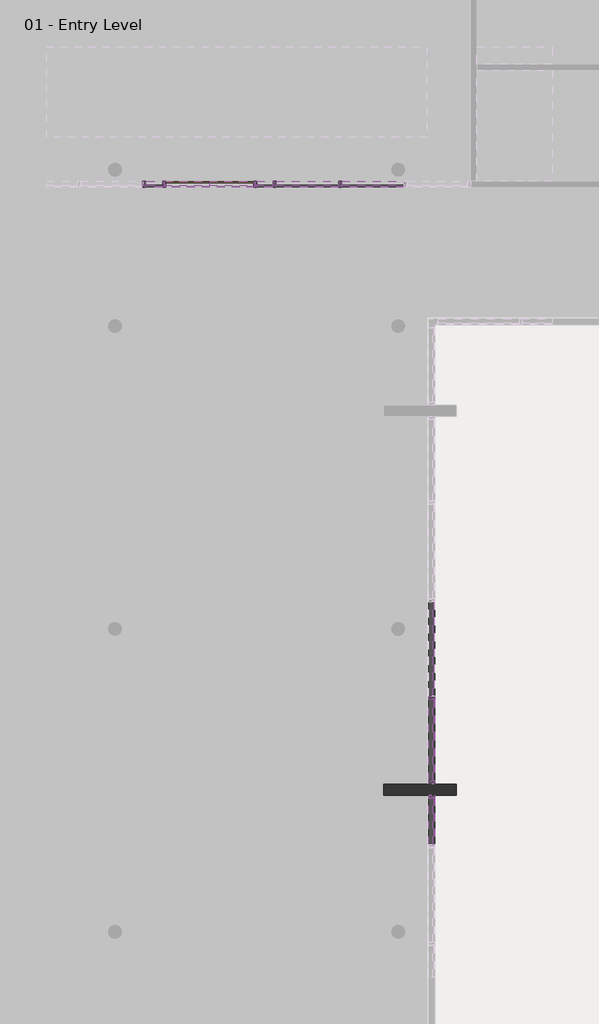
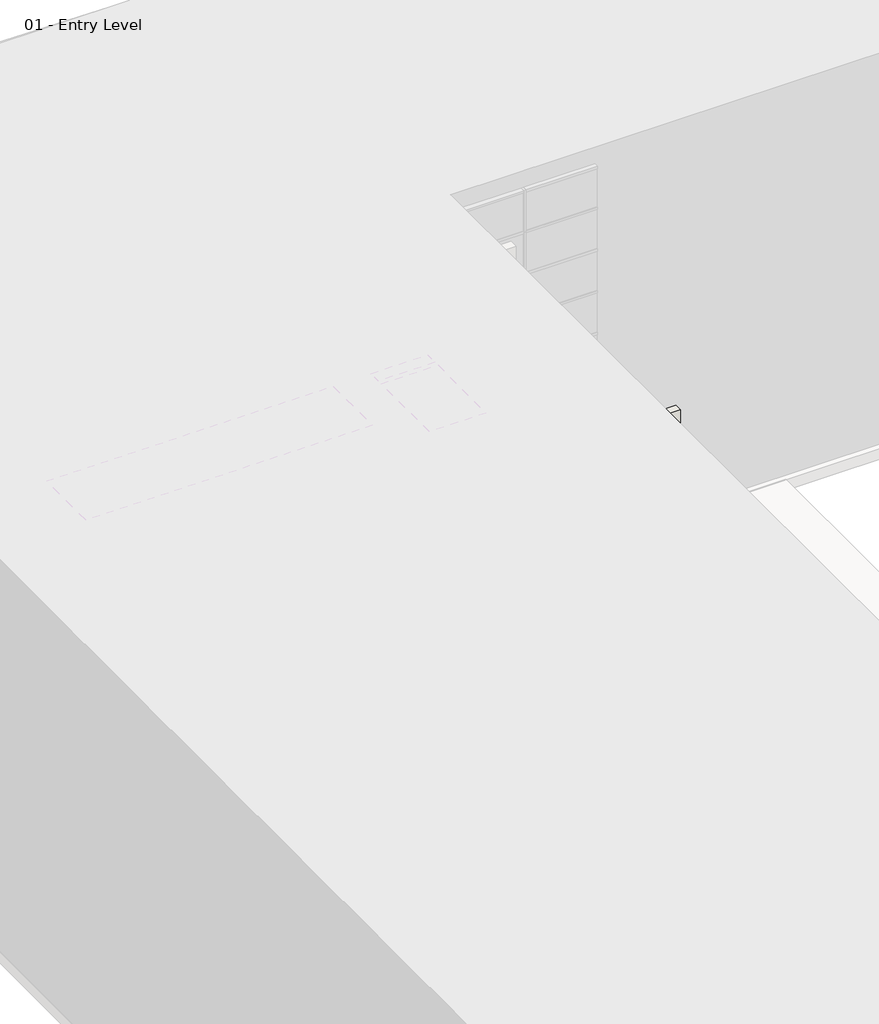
# One storey, part 24 of 34: 85 members, 35 plates, 1 door, 1 wall.
"""IFC4 building model written with IfcOpenShell, lengths in millimetres."""

from ifc_helpers import new_model, si_unit, origin, origin_with_axes, place, context, project, spatial, polyline, outline, extrude, transform, mapped, element, save
from components import curtain_wall_dbl_glass_curtain_wall_dbl_glass_a5de0235, member_2b49869a, member_75074519, member_18e22e2d, member_391b434c, member_9e90ae50, member_9193c932, member_515a5600, member_9fe7059d, member_6186cc23, member_5d67b9fc, member_547128e5, member_cc8ff548, member_c8c2a2fa, member_03a502dc, member_ec52078f, member_285f5b4f, member_dfe75557, member_585e2b51, member_410c6227, member_1526e78e, system_panel_glazed_1b9d6098, system_panel_glazed_70da479d, system_panel_glazed_bfb2913e, system_panel_glazed_9f006979, system_panel_glazed_379c68fb, system_panel_glazed_1c1023c8, system_panel_glazed_212f699e, system_panel_glazed_3e91a32b, system_panel_glazed_e70ec364, system_panel_glazed_02f9f53d, system_panel_glazed_aad5485d

model = new_model("IFC4")

# Units and contexts
model_context = context("Model", 3, world=origin())
ifc_project = project(units=[si_unit("LENGTHUNIT", "METRE", prefix="MILLI")], contexts=[model_context])

# Site, building, storey
site = spatial("IfcSite", under=ifc_project)
building = spatial("IfcBuilding", under=site)
storey = spatial("IfcBuildingStorey", under=building, Name="01 - Entry Level", Elevation=0.0)

# Door
placement = place(None, origin())
curtain_wall_dbl_glass_curtain_wall_dbl_glass_shape = curtain_wall_dbl_glass_curtain_wall_dbl_glass_a5de0235(model_context)
element("IfcDoor", 1, ObjectType="Curtain Wall Dbl Glass : Curtain Wall Dbl Glass", at=placement, inside=storey, context=model_context, shape_type="MappedRepresentation", body=[
    mapped(curtain_wall_dbl_glass_curtain_wall_dbl_glass_shape, transform((12561.2207476, 45608.8, 0.0), x_axis=(-1.0, 0.0, 0.0), y_axis=(0.0, -1.0, 0.0), z_axis=(0.0, 0.0, 1.0))),
])

# Members
member_shape = member_2b49869a(model_context)
element("IfcMember", 2, ObjectType="Rectangular Mullion : 2.5\" x 5\" rectangular", at=placement, inside=storey, context=model_context, shape_type="MappedRepresentation", body=[
    mapped(member_shape, transform((17184.0207476, 34928.1, 9753.6), x_axis=(0.0, 1.0, 0.0), y_axis=(1.0, 0.0, 0.0), z_axis=(0.0, 0.0, -1.0))),
])
member_2_shape = member_75074519(model_context)
element("IfcMember", 3, ObjectType="Rectangular Mullion : 2.5\" x 5\" rectangular", at=placement, inside=storey, context=model_context, shape_type="MappedRepresentation", body=[
    mapped(member_2_shape, transform((17184.0207476, 33137.4, 10972.8), x_axis=(0.0, -1.0, 0.0), y_axis=(1.0, 0.0, 0.0), z_axis=(0.0, 0.0, 1.0))),
])
element("IfcMember", 4, ObjectType="Rectangular Mullion : 2.5\" x 5\" rectangular", at=placement, inside=storey, context=model_context, shape_type="MappedRepresentation", body=[
    mapped(member_2_shape, transform((17184.0207476, 32908.8, 9753.6), x_axis=(0.0, 1.0, 0.0), y_axis=(1.0, 0.0, 0.0), z_axis=(0.0, 0.0, -1.0))),
])
member_3_shape = member_18e22e2d(model_context)
element("IfcMember", 5, ObjectType="Rectangular Mullion : 2.5\" x 5\" rectangular", at=placement, inside=storey, context=model_context, shape_type="MappedRepresentation", body=[
    mapped(member_3_shape, transform((15279.0207476, 45608.8, 2438.4), x_axis=(-1.0, 0.0, 0.0), y_axis=(0.0, 1.0, 0.0), z_axis=(0.0, 0.0, -1.0))),
])
element("IfcMember", 6, ObjectType="Rectangular Mullion : 2.5\" x 5\" rectangular", at=placement, inside=storey, context=model_context, shape_type="MappedRepresentation", body=[
    mapped(member_3_shape, transform((13920.1207476, 45608.8, 2438.4), x_axis=(-1.0, 0.0, 0.0), y_axis=(0.0, 1.0, 0.0), z_axis=(0.0, 0.0, -1.0))),
])
element("IfcMember", 7, ObjectType="Rectangular Mullion : 2.5\" x 5\" rectangular", at=placement, inside=storey, context=model_context, shape_type="MappedRepresentation", body=[
    mapped(member_3_shape, transform((11202.3207476, 45608.8, 2438.4), x_axis=(-1.0, 0.0, 0.0), y_axis=(0.0, 1.0, 0.0), z_axis=(0.0, 0.0, -1.0))),
])
member_4_shape = member_391b434c(model_context)
element("IfcMember", 8, ObjectType="Rectangular Mullion : 2.5\" x 5\" rectangular", at=placement, inside=storey, context=model_context, shape_type="MappedRepresentation", body=[
    mapped(member_4_shape, transform((17184.0207476, 36928.35, 10972.8), x_axis=(0.0, 0.0, 1.0), y_axis=(1.0, 0.0, 0.0), z_axis=(0.0, 1.0, 0.0))),
])
element("IfcMember", 9, ObjectType="Rectangular Mullion : 2.5\" x 5\" rectangular", at=placement, inside=storey, context=model_context, shape_type="MappedRepresentation", body=[
    mapped(member_4_shape, transform((17184.0207476, 34959.85, 0.0), x_axis=(0.0, 0.0, -1.0), y_axis=(1.0, 0.0, 0.0), z_axis=(0.0, -1.0, 0.0))),
])
element("IfcMember", 10, ObjectType="Rectangular Mullion : 2.5\" x 5\" rectangular", at=placement, inside=storey, context=model_context, shape_type="MappedRepresentation", body=[
    mapped(member_4_shape, transform((17184.0207476, 36991.85, 0.0), x_axis=(0.0, 0.0, -1.0), y_axis=(1.0, 0.0, 0.0), z_axis=(0.0, -1.0, 0.0))),
])
member_5_shape = member_9e90ae50(model_context)
element("IfcMember", 11, ObjectType="Rectangular Mullion : 2.5\" x 5\" rectangular", at=placement, inside=storey, context=model_context, shape_type="MappedRepresentation", body=[
    mapped(member_5_shape, transform((17184.0207476, 36928.35, 1219.2), x_axis=(0.0, 0.0, 1.0), y_axis=(1.0, 0.0, 0.0), z_axis=(0.0, 1.0, 0.0))),
])
element("IfcMember", 12, ObjectType="Rectangular Mullion : 2.5\" x 5\" rectangular", at=placement, inside=storey, context=model_context, shape_type="MappedRepresentation", body=[
    mapped(member_5_shape, transform((17184.0207476, 36928.35, 2438.4), x_axis=(0.0, 0.0, 1.0), y_axis=(1.0, 0.0, 0.0), z_axis=(0.0, 1.0, 0.0))),
])
element("IfcMember", 13, ObjectType="Rectangular Mullion : 2.5\" x 5\" rectangular", at=placement, inside=storey, context=model_context, shape_type="MappedRepresentation", body=[
    mapped(member_5_shape, transform((17184.0207476, 36928.35, 3657.6), x_axis=(0.0, 0.0, 1.0), y_axis=(1.0, 0.0, 0.0), z_axis=(0.0, 1.0, 0.0))),
])
element("IfcMember", 14, ObjectType="Rectangular Mullion : 2.5\" x 5\" rectangular", at=placement, inside=storey, context=model_context, shape_type="MappedRepresentation", body=[
    mapped(member_5_shape, transform((17184.0207476, 36928.35, 4876.8), x_axis=(0.0, 0.0, 1.0), y_axis=(1.0, 0.0, 0.0), z_axis=(0.0, 1.0, 0.0))),
])
element("IfcMember", 15, ObjectType="Rectangular Mullion : 2.5\" x 5\" rectangular", at=placement, inside=storey, context=model_context, shape_type="MappedRepresentation", body=[
    mapped(member_5_shape, transform((17184.0207476, 36928.35, 6096.0), x_axis=(0.0, 0.0, 1.0), y_axis=(1.0, 0.0, 0.0), z_axis=(0.0, 1.0, 0.0))),
])
element("IfcMember", 16, ObjectType="Rectangular Mullion : 2.5\" x 5\" rectangular", at=placement, inside=storey, context=model_context, shape_type="MappedRepresentation", body=[
    mapped(member_5_shape, transform((17184.0207476, 36928.35, 7315.2), x_axis=(0.0, 0.0, 1.0), y_axis=(1.0, 0.0, 0.0), z_axis=(0.0, 1.0, 0.0))),
])
element("IfcMember", 17, ObjectType="Rectangular Mullion : 2.5\" x 5\" rectangular", at=placement, inside=storey, context=model_context, shape_type="MappedRepresentation", body=[
    mapped(member_5_shape, transform((17184.0207476, 36928.35, 8534.4), x_axis=(0.0, 0.0, 1.0), y_axis=(1.0, 0.0, 0.0), z_axis=(0.0, 1.0, 0.0))),
])
element("IfcMember", 18, ObjectType="Rectangular Mullion : 2.5\" x 5\" rectangular", at=placement, inside=storey, context=model_context, shape_type="MappedRepresentation", body=[
    mapped(member_shape, transform((17184.0207476, 34928.1, 0.0), x_axis=(0.0, 1.0, 0.0), y_axis=(1.0, 0.0, 0.0), z_axis=(0.0, 0.0, -1.0))),
])
element("IfcMember", 19, ObjectType="Rectangular Mullion : 2.5\" x 5\" rectangular", at=placement, inside=storey, context=model_context, shape_type="MappedRepresentation", body=[
    mapped(member_shape, transform((17184.0207476, 34928.1, 1219.2), x_axis=(0.0, 1.0, 0.0), y_axis=(1.0, 0.0, 0.0), z_axis=(0.0, 0.0, -1.0))),
])
element("IfcMember", 20, ObjectType="Rectangular Mullion : 2.5\" x 5\" rectangular", at=placement, inside=storey, context=model_context, shape_type="MappedRepresentation", body=[
    mapped(member_shape, transform((17184.0207476, 34928.1, 2438.4), x_axis=(0.0, 1.0, 0.0), y_axis=(1.0, 0.0, 0.0), z_axis=(0.0, 0.0, -1.0))),
])
element("IfcMember", 21, ObjectType="Rectangular Mullion : 2.5\" x 5\" rectangular", at=placement, inside=storey, context=model_context, shape_type="MappedRepresentation", body=[
    mapped(member_shape, transform((17184.0207476, 34928.1, 3657.6), x_axis=(0.0, 1.0, 0.0), y_axis=(1.0, 0.0, 0.0), z_axis=(0.0, 0.0, -1.0))),
])
element("IfcMember", 22, ObjectType="Rectangular Mullion : 2.5\" x 5\" rectangular", at=placement, inside=storey, context=model_context, shape_type="MappedRepresentation", body=[
    mapped(member_shape, transform((17184.0207476, 34928.1, 4876.8), x_axis=(0.0, 1.0, 0.0), y_axis=(1.0, 0.0, 0.0), z_axis=(0.0, 0.0, -1.0))),
])
element("IfcMember", 23, ObjectType="Rectangular Mullion : 2.5\" x 5\" rectangular", at=placement, inside=storey, context=model_context, shape_type="MappedRepresentation", body=[
    mapped(member_shape, transform((17184.0207476, 34928.1, 6096.0), x_axis=(0.0, 1.0, 0.0), y_axis=(1.0, 0.0, 0.0), z_axis=(0.0, 0.0, -1.0))),
])
element("IfcMember", 24, ObjectType="Rectangular Mullion : 2.5\" x 5\" rectangular", at=placement, inside=storey, context=model_context, shape_type="MappedRepresentation", body=[
    mapped(member_shape, transform((17184.0207476, 34928.1, 7315.2), x_axis=(0.0, 1.0, 0.0), y_axis=(1.0, 0.0, 0.0), z_axis=(0.0, 0.0, -1.0))),
])
element("IfcMember", 25, ObjectType="Rectangular Mullion : 2.5\" x 5\" rectangular", at=placement, inside=storey, context=model_context, shape_type="MappedRepresentation", body=[
    mapped(member_shape, transform((17184.0207476, 34928.1, 8534.4), x_axis=(0.0, 1.0, 0.0), y_axis=(1.0, 0.0, 0.0), z_axis=(0.0, 0.0, -1.0))),
])
element("IfcMember", 26, ObjectType="Rectangular Mullion : 2.5\" x 5\" rectangular", at=placement, inside=storey, context=model_context, shape_type="MappedRepresentation", body=[
    mapped(member_2_shape, transform((17184.0207476, 32908.8, 0.0), x_axis=(0.0, 1.0, 0.0), y_axis=(1.0, 0.0, 0.0), z_axis=(0.0, 0.0, -1.0))),
])
element("IfcMember", 27, ObjectType="Rectangular Mullion : 2.5\" x 5\" rectangular", at=placement, inside=storey, context=model_context, shape_type="MappedRepresentation", body=[
    mapped(member_2_shape, transform((17184.0207476, 32908.8, 1219.2), x_axis=(0.0, 1.0, 0.0), y_axis=(1.0, 0.0, 0.0), z_axis=(0.0, 0.0, -1.0))),
])
element("IfcMember", 28, ObjectType="Rectangular Mullion : 2.5\" x 5\" rectangular", at=placement, inside=storey, context=model_context, shape_type="MappedRepresentation", body=[
    mapped(member_2_shape, transform((17184.0207476, 32908.8, 2438.4), x_axis=(0.0, 1.0, 0.0), y_axis=(1.0, 0.0, 0.0), z_axis=(0.0, 0.0, -1.0))),
])
element("IfcMember", 29, ObjectType="Rectangular Mullion : 2.5\" x 5\" rectangular", at=placement, inside=storey, context=model_context, shape_type="MappedRepresentation", body=[
    mapped(member_2_shape, transform((17184.0207476, 32908.8, 3657.6), x_axis=(0.0, 1.0, 0.0), y_axis=(1.0, 0.0, 0.0), z_axis=(0.0, 0.0, -1.0))),
])
element("IfcMember", 30, ObjectType="Rectangular Mullion : 2.5\" x 5\" rectangular", at=placement, inside=storey, context=model_context, shape_type="MappedRepresentation", body=[
    mapped(member_2_shape, transform((17184.0207476, 32908.8, 4876.8), x_axis=(0.0, 1.0, 0.0), y_axis=(1.0, 0.0, 0.0), z_axis=(0.0, 0.0, -1.0))),
])
element("IfcMember", 31, ObjectType="Rectangular Mullion : 2.5\" x 5\" rectangular", at=placement, inside=storey, context=model_context, shape_type="MappedRepresentation", body=[
    mapped(member_2_shape, transform((17184.0207476, 32908.8, 6096.0), x_axis=(0.0, 1.0, 0.0), y_axis=(1.0, 0.0, 0.0), z_axis=(0.0, 0.0, -1.0))),
])
element("IfcMember", 32, ObjectType="Rectangular Mullion : 2.5\" x 5\" rectangular", at=placement, inside=storey, context=model_context, shape_type="MappedRepresentation", body=[
    mapped(member_2_shape, transform((17184.0207476, 32908.8, 7315.2), x_axis=(0.0, 1.0, 0.0), y_axis=(1.0, 0.0, 0.0), z_axis=(0.0, 0.0, -1.0))),
])
element("IfcMember", 33, ObjectType="Rectangular Mullion : 2.5\" x 5\" rectangular", at=placement, inside=storey, context=model_context, shape_type="MappedRepresentation", body=[
    mapped(member_2_shape, transform((17184.0207476, 32908.8, 8534.4), x_axis=(0.0, 1.0, 0.0), y_axis=(1.0, 0.0, 0.0), z_axis=(0.0, 0.0, -1.0))),
])
element("IfcMember", 34, ObjectType="Rectangular Mullion : 2.5\" x 5\" rectangular", at=placement, inside=storey, context=model_context, shape_type="MappedRepresentation", body=[
    mapped(member_2_shape, transform((17184.0207476, 33137.4, 1219.2), x_axis=(0.0, -1.0, 0.0), y_axis=(1.0, 0.0, 0.0), z_axis=(0.0, 0.0, 1.0))),
])
element("IfcMember", 35, ObjectType="Rectangular Mullion : 2.5\" x 5\" rectangular", at=placement, inside=storey, context=model_context, shape_type="MappedRepresentation", body=[
    mapped(member_2_shape, transform((17184.0207476, 33137.4, 2438.4), x_axis=(0.0, -1.0, 0.0), y_axis=(1.0, 0.0, 0.0), z_axis=(0.0, 0.0, 1.0))),
])
element("IfcMember", 36, ObjectType="Rectangular Mullion : 2.5\" x 5\" rectangular", at=placement, inside=storey, context=model_context, shape_type="MappedRepresentation", body=[
    mapped(member_2_shape, transform((17184.0207476, 33137.4, 3657.6), x_axis=(0.0, -1.0, 0.0), y_axis=(1.0, 0.0, 0.0), z_axis=(0.0, 0.0, 1.0))),
])
element("IfcMember", 37, ObjectType="Rectangular Mullion : 2.5\" x 5\" rectangular", at=placement, inside=storey, context=model_context, shape_type="MappedRepresentation", body=[
    mapped(member_2_shape, transform((17184.0207476, 33137.4, 4876.8), x_axis=(0.0, -1.0, 0.0), y_axis=(1.0, 0.0, 0.0), z_axis=(0.0, 0.0, 1.0))),
])
element("IfcMember", 38, ObjectType="Rectangular Mullion : 2.5\" x 5\" rectangular", at=placement, inside=storey, context=model_context, shape_type="MappedRepresentation", body=[
    mapped(member_2_shape, transform((17184.0207476, 33137.4, 6096.0), x_axis=(0.0, -1.0, 0.0), y_axis=(1.0, 0.0, 0.0), z_axis=(0.0, 0.0, 1.0))),
])
element("IfcMember", 39, ObjectType="Rectangular Mullion : 2.5\" x 5\" rectangular", at=placement, inside=storey, context=model_context, shape_type="MappedRepresentation", body=[
    mapped(member_2_shape, transform((17184.0207476, 33137.4, 7315.2), x_axis=(0.0, -1.0, 0.0), y_axis=(1.0, 0.0, 0.0), z_axis=(0.0, 0.0, 1.0))),
])
element("IfcMember", 40, ObjectType="Rectangular Mullion : 2.5\" x 5\" rectangular", at=placement, inside=storey, context=model_context, shape_type="MappedRepresentation", body=[
    mapped(member_2_shape, transform((17184.0207476, 33137.4, 8534.4), x_axis=(0.0, -1.0, 0.0), y_axis=(1.0, 0.0, 0.0), z_axis=(0.0, 0.0, 1.0))),
])
element("IfcMember", 41, ObjectType="Rectangular Mullion : 2.5\" x 5\" rectangular", at=placement, inside=storey, context=model_context, shape_type="MappedRepresentation", body=[
    mapped(member_2_shape, transform((17184.0207476, 33137.4, 9753.6), x_axis=(0.0, -1.0, 0.0), y_axis=(1.0, 0.0, 0.0), z_axis=(0.0, 0.0, 1.0))),
])
member_6_shape = member_9193c932(model_context)
element("IfcMember", 42, ObjectType="Rectangular Mullion : 2.5\" x 5\" rectangular", at=placement, inside=storey, context=model_context, shape_type="MappedRepresentation", body=[
    mapped(member_6_shape, transform((17184.0207476, 32845.3, 10972.8), x_axis=(0.0, 0.0, 1.0), y_axis=(1.0, 0.0, 0.0), z_axis=(0.0, 1.0, 0.0))),
])
element("IfcMember", 43, ObjectType="Rectangular Mullion : 2.5\" x 5\" rectangular", at=placement, inside=storey, context=model_context, shape_type="MappedRepresentation", body=[
    mapped(member_3_shape, transform((17184.0207476, 32845.3, 1219.2), x_axis=(0.0, 0.0, 1.0), y_axis=(1.0, 0.0, 0.0), z_axis=(0.0, 1.0, 0.0))),
])
element("IfcMember", 44, ObjectType="Rectangular Mullion : 2.5\" x 5\" rectangular", at=placement, inside=storey, context=model_context, shape_type="MappedRepresentation", body=[
    mapped(member_3_shape, transform((17184.0207476, 32845.3, 2438.4), x_axis=(0.0, 0.0, 1.0), y_axis=(1.0, 0.0, 0.0), z_axis=(0.0, 1.0, 0.0))),
])
element("IfcMember", 45, ObjectType="Rectangular Mullion : 2.5\" x 5\" rectangular", at=placement, inside=storey, context=model_context, shape_type="MappedRepresentation", body=[
    mapped(member_3_shape, transform((17184.0207476, 32845.3, 3657.6), x_axis=(0.0, 0.0, 1.0), y_axis=(1.0, 0.0, 0.0), z_axis=(0.0, 1.0, 0.0))),
])
element("IfcMember", 46, ObjectType="Rectangular Mullion : 2.5\" x 5\" rectangular", at=placement, inside=storey, context=model_context, shape_type="MappedRepresentation", body=[
    mapped(member_3_shape, transform((17184.0207476, 32845.3, 4876.8), x_axis=(0.0, 0.0, 1.0), y_axis=(1.0, 0.0, 0.0), z_axis=(0.0, 1.0, 0.0))),
])
element("IfcMember", 47, ObjectType="Rectangular Mullion : 2.5\" x 5\" rectangular", at=placement, inside=storey, context=model_context, shape_type="MappedRepresentation", body=[
    mapped(member_3_shape, transform((17184.0207476, 32845.3, 6096.0), x_axis=(0.0, 0.0, 1.0), y_axis=(1.0, 0.0, 0.0), z_axis=(0.0, 1.0, 0.0))),
])
element("IfcMember", 48, ObjectType="Rectangular Mullion : 2.5\" x 5\" rectangular", at=placement, inside=storey, context=model_context, shape_type="MappedRepresentation", body=[
    mapped(member_3_shape, transform((17184.0207476, 32845.3, 7315.2), x_axis=(0.0, 0.0, 1.0), y_axis=(1.0, 0.0, 0.0), z_axis=(0.0, 1.0, 0.0))),
])
element("IfcMember", 49, ObjectType="Rectangular Mullion : 2.5\" x 5\" rectangular", at=placement, inside=storey, context=model_context, shape_type="MappedRepresentation", body=[
    mapped(member_3_shape, transform((17184.0207476, 32845.3, 8534.4), x_axis=(0.0, 0.0, 1.0), y_axis=(1.0, 0.0, 0.0), z_axis=(0.0, 1.0, 0.0))),
])
element("IfcMember", 50, ObjectType="Rectangular Mullion : 2.5\" x 5\" rectangular", at=placement, inside=storey, context=model_context, shape_type="MappedRepresentation", body=[
    mapped(member_3_shape, transform((17184.0207476, 32845.3, 9753.6), x_axis=(0.0, 0.0, 1.0), y_axis=(1.0, 0.0, 0.0), z_axis=(0.0, 1.0, 0.0))),
])
member_7_shape = member_515a5600(model_context)
element("IfcMember", 51, ObjectType="Rectangular Mullion : 2.5\" x 5\" rectangular", at=placement, inside=storey, context=model_context, shape_type="MappedRepresentation", body=[
    mapped(member_7_shape, transform((17184.0207476, 34896.35, 10972.8), x_axis=(0.0, 0.0, 1.0), y_axis=(1.0, 0.0, 0.0), z_axis=(0.0, 1.0, 0.0))),
])
element("IfcMember", 52, ObjectType="Rectangular Mullion : 2.5\" x 5\" rectangular", at=placement, inside=storey, context=model_context, shape_type="MappedRepresentation", body=[
    mapped(member_7_shape, transform((17184.0207476, 33200.9, 0.0), x_axis=(0.0, 0.0, -1.0), y_axis=(1.0, 0.0, 0.0), z_axis=(0.0, -1.0, 0.0))),
])
member_8_shape = member_9fe7059d(model_context)
element("IfcMember", 53, ObjectType="Rectangular Mullion : 2.5\" x 5\" rectangular", at=placement, inside=storey, context=model_context, shape_type="MappedRepresentation", body=[
    mapped(member_8_shape, transform((17184.0207476, 34896.35, 1219.2), x_axis=(0.0, 0.0, 1.0), y_axis=(1.0, 0.0, 0.0), z_axis=(0.0, 1.0, 0.0))),
])
element("IfcMember", 54, ObjectType="Rectangular Mullion : 2.5\" x 5\" rectangular", at=placement, inside=storey, context=model_context, shape_type="MappedRepresentation", body=[
    mapped(member_8_shape, transform((17184.0207476, 34896.35, 2438.4), x_axis=(0.0, 0.0, 1.0), y_axis=(1.0, 0.0, 0.0), z_axis=(0.0, 1.0, 0.0))),
])
element("IfcMember", 55, ObjectType="Rectangular Mullion : 2.5\" x 5\" rectangular", at=placement, inside=storey, context=model_context, shape_type="MappedRepresentation", body=[
    mapped(member_8_shape, transform((17184.0207476, 34896.35, 3657.6), x_axis=(0.0, 0.0, 1.0), y_axis=(1.0, 0.0, 0.0), z_axis=(0.0, 1.0, 0.0))),
])
element("IfcMember", 56, ObjectType="Rectangular Mullion : 2.5\" x 5\" rectangular", at=placement, inside=storey, context=model_context, shape_type="MappedRepresentation", body=[
    mapped(member_8_shape, transform((17184.0207476, 34896.35, 4876.8), x_axis=(0.0, 0.0, 1.0), y_axis=(1.0, 0.0, 0.0), z_axis=(0.0, 1.0, 0.0))),
])
element("IfcMember", 57, ObjectType="Rectangular Mullion : 2.5\" x 5\" rectangular", at=placement, inside=storey, context=model_context, shape_type="MappedRepresentation", body=[
    mapped(member_8_shape, transform((17184.0207476, 34896.35, 6096.0), x_axis=(0.0, 0.0, 1.0), y_axis=(1.0, 0.0, 0.0), z_axis=(0.0, 1.0, 0.0))),
])
element("IfcMember", 58, ObjectType="Rectangular Mullion : 2.5\" x 5\" rectangular", at=placement, inside=storey, context=model_context, shape_type="MappedRepresentation", body=[
    mapped(member_8_shape, transform((17184.0207476, 34896.35, 7315.2), x_axis=(0.0, 0.0, 1.0), y_axis=(1.0, 0.0, 0.0), z_axis=(0.0, 1.0, 0.0))),
])
element("IfcMember", 59, ObjectType="Rectangular Mullion : 2.5\" x 5\" rectangular", at=placement, inside=storey, context=model_context, shape_type="MappedRepresentation", body=[
    mapped(member_8_shape, transform((17184.0207476, 34896.35, 8534.4), x_axis=(0.0, 0.0, 1.0), y_axis=(1.0, 0.0, 0.0), z_axis=(0.0, 1.0, 0.0))),
])
element("IfcMember", 60, ObjectType="Rectangular Mullion : 2.5\" x 5\" rectangular", at=placement, inside=storey, context=model_context, shape_type="MappedRepresentation", body=[
    mapped(member_8_shape, transform((17184.0207476, 34896.35, 9753.6), x_axis=(0.0, 0.0, 1.0), y_axis=(1.0, 0.0, 0.0), z_axis=(0.0, 1.0, 0.0))),
])
member_9_shape = member_6186cc23(model_context)
element("IfcMember", 61, ObjectType="Rectangular Mullion : 2.5\" x 5\" rectangular", at=placement, inside=storey, context=model_context, shape_type="MappedRepresentation", body=[
    mapped(member_9_shape, transform((13920.1207476, 45608.8, 0.0), x_axis=(-1.0, 0.0, 0.0), y_axis=(0.0, 1.0, 0.0), z_axis=(0.0, 0.0, -1.0))),
])
element("IfcMember", 62, ObjectType="Rectangular Mullion : 2.5\" x 5\" rectangular", at=placement, inside=storey, context=model_context, shape_type="MappedRepresentation", body=[
    mapped(member_9_shape, transform((11202.3207476, 45608.8, 0.0), x_axis=(-1.0, 0.0, 0.0), y_axis=(0.0, 1.0, 0.0), z_axis=(0.0, 0.0, -1.0))),
])
member_10_shape = member_5d67b9fc(model_context)
element("IfcMember", 63, ObjectType="Rectangular Mullion : 2.5\" x 5\" rectangular", at=placement, inside=storey, context=model_context, shape_type="MappedRepresentation", body=[
    mapped(member_10_shape, transform((13920.1207476, 45608.8, 2165.35), x_axis=(-1.0, 0.0, 0.0), y_axis=(0.0, 1.0, 0.0), z_axis=(0.0, 0.0, -1.0))),
])
element("IfcMember", 64, ObjectType="Rectangular Mullion : 2.5\" x 5\" rectangular", at=placement, inside=storey, context=model_context, shape_type="MappedRepresentation", body=[
    mapped(member_10_shape, transform((11202.3207476, 45608.8, 2165.35), x_axis=(-1.0, 0.0, 0.0), y_axis=(0.0, 1.0, 0.0), z_axis=(0.0, 0.0, -1.0))),
])
element("IfcMember", 65, ObjectType="Rectangular Mullion : 2.5\" x 5\" rectangular", at=placement, inside=storey, context=model_context, shape_type="MappedRepresentation", body=[
    mapped(member_9_shape, transform((15279.0207476, 45608.8, 0.0), x_axis=(-1.0, 0.0, 0.0), y_axis=(0.0, 1.0, 0.0), z_axis=(0.0, 0.0, -1.0))),
])
element("IfcMember", 66, ObjectType="Rectangular Mullion : 2.5\" x 5\" rectangular", at=placement, inside=storey, context=model_context, shape_type="MappedRepresentation", body=[
    mapped(member_10_shape, transform((15279.0207476, 45608.8, 2165.35), x_axis=(-1.0, 0.0, 0.0), y_axis=(0.0, 1.0, 0.0), z_axis=(0.0, 0.0, -1.0))),
])
member_11_shape = member_547128e5(model_context)
element("IfcMember", 67, ObjectType="Rectangular Mullion : 2.5\" x 5\" rectangular", at=placement, inside=storey, context=model_context, shape_type="MappedRepresentation", body=[
    mapped(member_11_shape, transform((15310.7707476, 45608.8, 3403.6), x_axis=(0.0, 0.0, 1.0), y_axis=(0.0, 1.0, 0.0), z_axis=(-1.0, 0.0, 0.0))),
])
element("IfcMember", 68, ObjectType="Rectangular Mullion : 2.5\" x 5\" rectangular", at=placement, inside=storey, context=model_context, shape_type="MappedRepresentation", body=[
    mapped(member_11_shape, transform((13951.8707476, 45608.8, 3403.6), x_axis=(0.0, 0.0, 1.0), y_axis=(0.0, 1.0, 0.0), z_axis=(-1.0, 0.0, 0.0))),
])
member_12_shape = member_cc8ff548(model_context)
element("IfcMember", 69, ObjectType="Rectangular Mullion : 2.5\" x 5\" rectangular", at=placement, inside=storey, context=model_context, shape_type="MappedRepresentation", body=[
    mapped(member_12_shape, transform((12561.2207476, 45608.8, 3403.6), x_axis=(0.0, 0.0, 1.0), y_axis=(0.0, 1.0, 0.0), z_axis=(-1.0, 0.0, 0.0))),
])
element("IfcMember", 70, ObjectType="Rectangular Mullion : 2.5\" x 5\" rectangular", at=placement, inside=storey, context=model_context, shape_type="MappedRepresentation", body=[
    mapped(member_12_shape, transform((11615.0707476, 45608.8, 3403.6), x_axis=(0.0, 0.0, 1.0), y_axis=(0.0, 1.0, 0.0), z_axis=(-1.0, 0.0, 0.0))),
])
element("IfcMember", 71, ObjectType="Rectangular Mullion : 2.5\" x 5\" rectangular", at=placement, inside=storey, context=model_context, shape_type="MappedRepresentation", body=[
    mapped(member_11_shape, transform((15247.2707476, 45608.8, 0.0), x_axis=(0.0, 0.0, -1.0), y_axis=(0.0, 1.0, 0.0), z_axis=(1.0, 0.0, 0.0))),
])
member_13_shape = member_c8c2a2fa(model_context)
element("IfcMember", 72, ObjectType="Rectangular Mullion : 2.5\" x 5\" rectangular", at=placement, inside=storey, context=model_context, shape_type="MappedRepresentation", body=[
    mapped(member_13_shape, transform((15310.7707476, 45608.8, 2438.4), x_axis=(0.0, 0.0, 1.0), y_axis=(0.0, 1.0, 0.0), z_axis=(-1.0, 0.0, 0.0))),
])
element("IfcMember", 73, ObjectType="Rectangular Mullion : 2.5\" x 5\" rectangular", at=placement, inside=storey, context=model_context, shape_type="MappedRepresentation", body=[
    mapped(member_13_shape, transform((13951.8707476, 45608.8, 2438.4), x_axis=(0.0, 0.0, 1.0), y_axis=(0.0, 1.0, 0.0), z_axis=(-1.0, 0.0, 0.0))),
])
member_14_shape = member_03a502dc(model_context)
element("IfcMember", 74, ObjectType="Rectangular Mullion : 2.5\" x 5\" rectangular", at=placement, inside=storey, context=model_context, shape_type="MappedRepresentation", body=[
    mapped(member_14_shape, transform((13507.3707476, 45608.8, 2438.4), x_axis=(0.0, 0.0, 1.0), y_axis=(0.0, 1.0, 0.0), z_axis=(-1.0, 0.0, 0.0))),
])
member_15_shape = member_ec52078f(model_context)
element("IfcMember", 75, ObjectType="Rectangular Mullion : 2.5\" x 5\" rectangular", at=placement, inside=storey, context=model_context, shape_type="MappedRepresentation", body=[
    mapped(member_15_shape, transform((11615.0707476, 45608.8, 2438.4), x_axis=(0.0, 0.0, 1.0), y_axis=(0.0, 1.0, 0.0), z_axis=(-1.0, 0.0, 0.0))),
])
element("IfcMember", 76, ObjectType="Rectangular Mullion : 2.5\" x 5\" rectangular", at=placement, inside=storey, context=model_context, shape_type="MappedRepresentation", body=[
    mapped(member_15_shape, transform((12561.2207476, 45608.8, 2438.4), x_axis=(0.0, 0.0, 1.0), y_axis=(0.0, 1.0, 0.0), z_axis=(-1.0, 0.0, 0.0))),
])
member_16_shape = member_285f5b4f(model_context)
element("IfcMember", 77, ObjectType="Rectangular Mullion : 2.5\" x 5\" rectangular", at=placement, inside=storey, context=model_context, shape_type="MappedRepresentation", body=[
    mapped(member_16_shape, transform((11583.3207476, 45608.8, 0.0), x_axis=(0.0, 0.0, -1.0), y_axis=(0.0, 1.0, 0.0), z_axis=(1.0, 0.0, 0.0))),
])
element("IfcMember", 78, ObjectType="Rectangular Mullion : 2.5\" x 5\" rectangular", at=placement, inside=storey, context=model_context, shape_type="MappedRepresentation", body=[
    mapped(member_16_shape, transform((13888.3707476, 45608.8, 0.0), x_axis=(0.0, 0.0, -1.0), y_axis=(0.0, 1.0, 0.0), z_axis=(1.0, 0.0, 0.0))),
])
element("IfcMember", 79, ObjectType="Rectangular Mullion : 2.5\" x 5\" rectangular", at=placement, inside=storey, context=model_context, shape_type="MappedRepresentation", body=[
    mapped(member_14_shape, transform((11234.0707476, 45608.8, 2438.4), x_axis=(0.0, 0.0, 1.0), y_axis=(0.0, 1.0, 0.0), z_axis=(-1.0, 0.0, 0.0))),
])
member_17_shape = member_dfe75557(model_context)
element("IfcMember", 80, ObjectType="Rectangular Mullion : 2.5\" x 5\" rectangular", at=placement, inside=storey, context=model_context, shape_type="MappedRepresentation", body=[
    mapped(member_17_shape, transform((13507.3707476, 45608.8, 3403.6), x_axis=(0.0, 0.0, 1.0), y_axis=(0.0, 1.0, 0.0), z_axis=(-1.0, 0.0, 0.0))),
])
member_18_shape = member_585e2b51(model_context)
element("IfcMember", 81, ObjectType="Rectangular Mullion : 2.5\" x 5\" rectangular", at=placement, inside=storey, context=model_context, shape_type="MappedRepresentation", body=[
    mapped(member_18_shape, transform((13539.1207476, 45608.8, 2165.35), x_axis=(0.0, 0.0, 1.0), y_axis=(0.0, 1.0, 0.0), z_axis=(-1.0, 0.0, 0.0))),
])
element("IfcMember", 82, ObjectType="Rectangular Mullion : 2.5\" x 5\" rectangular", at=placement, inside=storey, context=model_context, shape_type="MappedRepresentation", body=[
    mapped(member_18_shape, transform((11234.0707476, 45608.8, 2165.35), x_axis=(0.0, 0.0, 1.0), y_axis=(0.0, 1.0, 0.0), z_axis=(-1.0, 0.0, 0.0))),
])
member_19_shape = member_410c6227(model_context)
element("IfcMember", 83, ObjectType="Rectangular Mullion : 2.5\" x 5\" rectangular", at=placement, inside=storey, context=model_context, shape_type="MappedRepresentation", body=[
    mapped(member_19_shape, transform((12561.2207476, 45608.8, 2165.35), x_axis=(0.0, 0.0, 1.0), y_axis=(0.0, 1.0, 0.0), z_axis=(-1.0, 0.0, 0.0))),
])
element("IfcMember", 84, ObjectType="Rectangular Mullion : 2.5\" x 5\" rectangular", at=placement, inside=storey, context=model_context, shape_type="MappedRepresentation", body=[
    mapped(member_19_shape, transform((11646.8207476, 45608.8, 2165.35), x_axis=(0.0, 0.0, 1.0), y_axis=(0.0, 1.0, 0.0), z_axis=(-1.0, 0.0, 0.0))),
])
member_20_shape = member_1526e78e(model_context)
element("IfcMember", 85, ObjectType="Rectangular Mullion : 2.5\" x 5\" rectangular", at=placement, inside=storey, context=model_context, shape_type="MappedRepresentation", body=[
    mapped(member_20_shape, transform((11615.0707476, 45608.8, 0.0), x_axis=(-1.0, 0.0, 0.0), y_axis=(0.0, 1.0, 0.0), z_axis=(0.0, 0.0, -1.0))),
])
element("IfcMember", 86, ObjectType="Rectangular Mullion : 2.5\" x 5\" rectangular", at=placement, inside=storey, context=model_context, shape_type="MappedRepresentation", body=[
    mapped(member_20_shape, transform((13507.3707476, 45608.8, 0.0), x_axis=(-1.0, 0.0, 0.0), y_axis=(0.0, 1.0, 0.0), z_axis=(0.0, 0.0, -1.0))),
])

# Plates
system_panel_glazed_shape = system_panel_glazed_1b9d6098(model_context)
element("IfcPlate", 87, ObjectType="System Panel : Glazed", at=placement, inside=storey, context=model_context, shape_type="MappedRepresentation", body=[
    mapped(system_panel_glazed_shape, transform((17184.0207476, 35944.1, 63.5), x_axis=(0.0, 1.0, 0.0), y_axis=(-1.0, 0.0, 0.0), z_axis=(0.0, 0.0, 1.0))),
])
element("IfcPlate", 88, ObjectType="System Panel : Glazed", at=placement, inside=storey, context=model_context, shape_type="MappedRepresentation", body=[
    mapped(system_panel_glazed_shape, transform((17184.0207476, 35944.1, 9785.35), x_axis=(0.0, 1.0, 0.0), y_axis=(-1.0, 0.0, 0.0), z_axis=(0.0, 0.0, 1.0))),
])
system_panel_glazed_2_shape = system_panel_glazed_70da479d(model_context)
element("IfcPlate", 89, ObjectType="System Panel : Glazed", at=placement, inside=storey, context=model_context, shape_type="MappedRepresentation", body=[
    mapped(system_panel_glazed_2_shape, transform((17184.0207476, 35944.1, 1250.95), x_axis=(0.0, 1.0, 0.0), y_axis=(-1.0, 0.0, 0.0), z_axis=(0.0, 0.0, 1.0))),
])
element("IfcPlate", 90, ObjectType="System Panel : Glazed", at=placement, inside=storey, context=model_context, shape_type="MappedRepresentation", body=[
    mapped(system_panel_glazed_2_shape, transform((17184.0207476, 35944.1, 2470.15), x_axis=(0.0, 1.0, 0.0), y_axis=(-1.0, 0.0, 0.0), z_axis=(0.0, 0.0, 1.0))),
])
element("IfcPlate", 91, ObjectType="System Panel : Glazed", at=placement, inside=storey, context=model_context, shape_type="MappedRepresentation", body=[
    mapped(system_panel_glazed_2_shape, transform((17184.0207476, 35944.1, 3689.35), x_axis=(0.0, 1.0, 0.0), y_axis=(-1.0, 0.0, 0.0), z_axis=(0.0, 0.0, 1.0))),
])
element("IfcPlate", 92, ObjectType="System Panel : Glazed", at=placement, inside=storey, context=model_context, shape_type="MappedRepresentation", body=[
    mapped(system_panel_glazed_2_shape, transform((17184.0207476, 35944.1, 4908.55), x_axis=(0.0, 1.0, 0.0), y_axis=(-1.0, 0.0, 0.0), z_axis=(0.0, 0.0, 1.0))),
])
element("IfcPlate", 93, ObjectType="System Panel : Glazed", at=placement, inside=storey, context=model_context, shape_type="MappedRepresentation", body=[
    mapped(system_panel_glazed_2_shape, transform((17184.0207476, 35944.1, 6127.75), x_axis=(0.0, 1.0, 0.0), y_axis=(-1.0, 0.0, 0.0), z_axis=(0.0, 0.0, 1.0))),
])
element("IfcPlate", 94, ObjectType="System Panel : Glazed", at=placement, inside=storey, context=model_context, shape_type="MappedRepresentation", body=[
    mapped(system_panel_glazed_2_shape, transform((17184.0207476, 35944.1, 7346.95), x_axis=(0.0, 1.0, 0.0), y_axis=(-1.0, 0.0, 0.0), z_axis=(0.0, 0.0, 1.0))),
])
element("IfcPlate", 95, ObjectType="System Panel : Glazed", at=placement, inside=storey, context=model_context, shape_type="MappedRepresentation", body=[
    mapped(system_panel_glazed_2_shape, transform((17184.0207476, 35944.1, 8566.15), x_axis=(0.0, 1.0, 0.0), y_axis=(-1.0, 0.0, 0.0), z_axis=(0.0, 0.0, 1.0))),
])
system_panel_glazed_3_shape = system_panel_glazed_bfb2913e(model_context)
element("IfcPlate", 96, ObjectType="System Panel : Glazed", at=placement, inside=storey, context=model_context, shape_type="MappedRepresentation", body=[
    mapped(system_panel_glazed_3_shape, transform((17184.0207476, 32362.7, 63.5), x_axis=(0.0, 1.0, 0.0), y_axis=(-1.0, 0.0, 0.0), z_axis=(0.0, 0.0, 1.0))),
])
element("IfcPlate", 97, ObjectType="System Panel : Glazed", at=placement, inside=storey, context=model_context, shape_type="MappedRepresentation", body=[
    mapped(system_panel_glazed_3_shape, transform((17184.0207476, 32362.7, 9785.35), x_axis=(0.0, 1.0, 0.0), y_axis=(-1.0, 0.0, 0.0), z_axis=(0.0, 0.0, 1.0))),
])
system_panel_glazed_4_shape = system_panel_glazed_9f006979(model_context)
element("IfcPlate", 98, ObjectType="System Panel : Glazed", at=placement, inside=storey, context=model_context, shape_type="MappedRepresentation", body=[
    mapped(system_panel_glazed_4_shape, transform((17184.0207476, 32362.7, 1250.95), x_axis=(0.0, 1.0, 0.0), y_axis=(-1.0, 0.0, 0.0), z_axis=(0.0, 0.0, 1.0))),
])
element("IfcPlate", 99, ObjectType="System Panel : Glazed", at=placement, inside=storey, context=model_context, shape_type="MappedRepresentation", body=[
    mapped(system_panel_glazed_4_shape, transform((17184.0207476, 32362.7, 2470.15), x_axis=(0.0, 1.0, 0.0), y_axis=(-1.0, 0.0, 0.0), z_axis=(0.0, 0.0, 1.0))),
])
element("IfcPlate", 100, ObjectType="System Panel : Glazed", at=placement, inside=storey, context=model_context, shape_type="MappedRepresentation", body=[
    mapped(system_panel_glazed_4_shape, transform((17184.0207476, 32362.7, 3689.35), x_axis=(0.0, 1.0, 0.0), y_axis=(-1.0, 0.0, 0.0), z_axis=(0.0, 0.0, 1.0))),
])
element("IfcPlate", 101, ObjectType="System Panel : Glazed", at=placement, inside=storey, context=model_context, shape_type="MappedRepresentation", body=[
    mapped(system_panel_glazed_4_shape, transform((17184.0207476, 32362.7, 4908.55), x_axis=(0.0, 1.0, 0.0), y_axis=(-1.0, 0.0, 0.0), z_axis=(0.0, 0.0, 1.0))),
])
element("IfcPlate", 102, ObjectType="System Panel : Glazed", at=placement, inside=storey, context=model_context, shape_type="MappedRepresentation", body=[
    mapped(system_panel_glazed_4_shape, transform((17184.0207476, 32362.7, 6127.75), x_axis=(0.0, 1.0, 0.0), y_axis=(-1.0, 0.0, 0.0), z_axis=(0.0, 0.0, 1.0))),
])
element("IfcPlate", 103, ObjectType="System Panel : Glazed", at=placement, inside=storey, context=model_context, shape_type="MappedRepresentation", body=[
    mapped(system_panel_glazed_4_shape, transform((17184.0207476, 32362.7, 7346.95), x_axis=(0.0, 1.0, 0.0), y_axis=(-1.0, 0.0, 0.0), z_axis=(0.0, 0.0, 1.0))),
])
element("IfcPlate", 104, ObjectType="System Panel : Glazed", at=placement, inside=storey, context=model_context, shape_type="MappedRepresentation", body=[
    mapped(system_panel_glazed_4_shape, transform((17184.0207476, 32362.7, 8566.15), x_axis=(0.0, 1.0, 0.0), y_axis=(-1.0, 0.0, 0.0), z_axis=(0.0, 0.0, 1.0))),
])
system_panel_glazed_5_shape = system_panel_glazed_379c68fb(model_context)
element("IfcPlate", 105, ObjectType="System Panel : Glazed", at=placement, inside=storey, context=model_context, shape_type="MappedRepresentation", body=[
    mapped(system_panel_glazed_5_shape, transform((17184.0207476, 34048.625, 63.5), x_axis=(0.0, 1.0, 0.0), y_axis=(-1.0, 0.0, 0.0), z_axis=(0.0, 0.0, 1.0))),
])
element("IfcPlate", 106, ObjectType="System Panel : Glazed", at=placement, inside=storey, context=model_context, shape_type="MappedRepresentation", body=[
    mapped(system_panel_glazed_5_shape, transform((17184.0207476, 34048.625, 9785.35), x_axis=(0.0, 1.0, 0.0), y_axis=(-1.0, 0.0, 0.0), z_axis=(0.0, 0.0, 1.0))),
])
system_panel_glazed_6_shape = system_panel_glazed_1c1023c8(model_context)
element("IfcPlate", 107, ObjectType="System Panel : Glazed", at=placement, inside=storey, context=model_context, shape_type="MappedRepresentation", body=[
    mapped(system_panel_glazed_6_shape, transform((17184.0207476, 34048.625, 1250.95), x_axis=(0.0, 1.0, 0.0), y_axis=(-1.0, 0.0, 0.0), z_axis=(0.0, 0.0, 1.0))),
])
element("IfcPlate", 108, ObjectType="System Panel : Glazed", at=placement, inside=storey, context=model_context, shape_type="MappedRepresentation", body=[
    mapped(system_panel_glazed_6_shape, transform((17184.0207476, 34048.625, 2470.15), x_axis=(0.0, 1.0, 0.0), y_axis=(-1.0, 0.0, 0.0), z_axis=(0.0, 0.0, 1.0))),
])
element("IfcPlate", 109, ObjectType="System Panel : Glazed", at=placement, inside=storey, context=model_context, shape_type="MappedRepresentation", body=[
    mapped(system_panel_glazed_6_shape, transform((17184.0207476, 34048.625, 3689.35), x_axis=(0.0, 1.0, 0.0), y_axis=(-1.0, 0.0, 0.0), z_axis=(0.0, 0.0, 1.0))),
])
element("IfcPlate", 110, ObjectType="System Panel : Glazed", at=placement, inside=storey, context=model_context, shape_type="MappedRepresentation", body=[
    mapped(system_panel_glazed_6_shape, transform((17184.0207476, 34048.625, 4908.55), x_axis=(0.0, 1.0, 0.0), y_axis=(-1.0, 0.0, 0.0), z_axis=(0.0, 0.0, 1.0))),
])
element("IfcPlate", 111, ObjectType="System Panel : Glazed", at=placement, inside=storey, context=model_context, shape_type="MappedRepresentation", body=[
    mapped(system_panel_glazed_6_shape, transform((17184.0207476, 34048.625, 6127.75), x_axis=(0.0, 1.0, 0.0), y_axis=(-1.0, 0.0, 0.0), z_axis=(0.0, 0.0, 1.0))),
])
element("IfcPlate", 112, ObjectType="System Panel : Glazed", at=placement, inside=storey, context=model_context, shape_type="MappedRepresentation", body=[
    mapped(system_panel_glazed_6_shape, transform((17184.0207476, 34048.625, 7346.95), x_axis=(0.0, 1.0, 0.0), y_axis=(-1.0, 0.0, 0.0), z_axis=(0.0, 0.0, 1.0))),
])
element("IfcPlate", 113, ObjectType="System Panel : Glazed", at=placement, inside=storey, context=model_context, shape_type="MappedRepresentation", body=[
    mapped(system_panel_glazed_6_shape, transform((17184.0207476, 34048.625, 8566.15), x_axis=(0.0, 1.0, 0.0), y_axis=(-1.0, 0.0, 0.0), z_axis=(0.0, 0.0, 1.0))),
])
system_panel_glazed_7_shape = system_panel_glazed_212f699e(model_context)
element("IfcPlate", 114, ObjectType="System Panel : Glazed", at=placement, inside=storey, context=model_context, shape_type="MappedRepresentation", body=[
    mapped(system_panel_glazed_7_shape, transform((15958.4707476, 45608.8, 63.5), x_axis=(-1.0, 0.0, 0.0), y_axis=(0.0, -1.0, 0.0), z_axis=(0.0, 0.0, 1.0))),
])
element("IfcPlate", 115, ObjectType="System Panel : Glazed", at=placement, inside=storey, context=model_context, shape_type="MappedRepresentation", body=[
    mapped(system_panel_glazed_7_shape, transform((14599.5707476, 45608.8, 63.5), x_axis=(-1.0, 0.0, 0.0), y_axis=(0.0, -1.0, 0.0), z_axis=(0.0, 0.0, 1.0))),
])
system_panel_glazed_8_shape = system_panel_glazed_3e91a32b(model_context)
element("IfcPlate", 116, ObjectType="System Panel : Glazed", at=placement, inside=storey, context=model_context, shape_type="MappedRepresentation", body=[
    mapped(system_panel_glazed_8_shape, transform((13713.7457476, 45608.8, 63.5), x_axis=(-1.0, 0.0, 0.0), y_axis=(0.0, -1.0, 0.0), z_axis=(0.0, 0.0, 1.0))),
])
system_panel_glazed_9_shape = system_panel_glazed_e70ec364(model_context)
element("IfcPlate", 117, ObjectType="System Panel : Glazed", at=placement, inside=storey, context=model_context, shape_type="MappedRepresentation", body=[
    mapped(system_panel_glazed_9_shape, transform((15958.4707476, 45608.8, 2470.15), x_axis=(-1.0, 0.0, 0.0), y_axis=(0.0, -1.0, 0.0), z_axis=(0.0, 0.0, 1.0))),
])
element("IfcPlate", 118, ObjectType="System Panel : Glazed", at=placement, inside=storey, context=model_context, shape_type="MappedRepresentation", body=[
    mapped(system_panel_glazed_9_shape, transform((14599.5707476, 45608.8, 2470.15), x_axis=(-1.0, 0.0, 0.0), y_axis=(0.0, -1.0, 0.0), z_axis=(0.0, 0.0, 1.0))),
])
system_panel_glazed_10_shape = system_panel_glazed_02f9f53d(model_context)
element("IfcPlate", 119, ObjectType="System Panel : Glazed", at=placement, inside=storey, context=model_context, shape_type="MappedRepresentation", body=[
    mapped(system_panel_glazed_10_shape, transform((12561.2207476, 45608.8, 2470.15), x_axis=(-1.0, 0.0, 0.0), y_axis=(0.0, -1.0, 0.0), z_axis=(0.0, 0.0, 1.0))),
])
element("IfcPlate", 120, ObjectType="System Panel : Glazed", at=placement, inside=storey, context=model_context, shape_type="MappedRepresentation", body=[
    mapped(system_panel_glazed_8_shape, transform((11408.6957476, 45608.8, 63.5), x_axis=(-1.0, 0.0, 0.0), y_axis=(0.0, -1.0, 0.0), z_axis=(0.0, 0.0, 1.0))),
])
system_panel_glazed_11_shape = system_panel_glazed_aad5485d(model_context)
element("IfcPlate", 121, ObjectType="System Panel : Glazed", at=placement, inside=storey, context=model_context, shape_type="MappedRepresentation", body=[
    mapped(system_panel_glazed_11_shape, transform((12561.2207476, 45608.8, 2197.1), x_axis=(-1.0, 0.0, 0.0), y_axis=(0.0, -1.0, 0.0), z_axis=(0.0, 0.0, 1.0))),
])

# Wall
element("IfcWall", 122, ObjectType="9\" concrete", at=placement, inside=storey, context=model_context, shape_type="SweptSolid", body=[
    extrude(outline(polyline([(17688.9115197, 32908.8), (16188.9115197, 32908.8), (16188.9115197, 33137.4), (17688.9115197, 33137.4), (17688.9115197, 32908.8)])), origin_with_axes(), (0.0, 0.0, 1.0), 10972.8),
])

save(model, "model.ifc")
